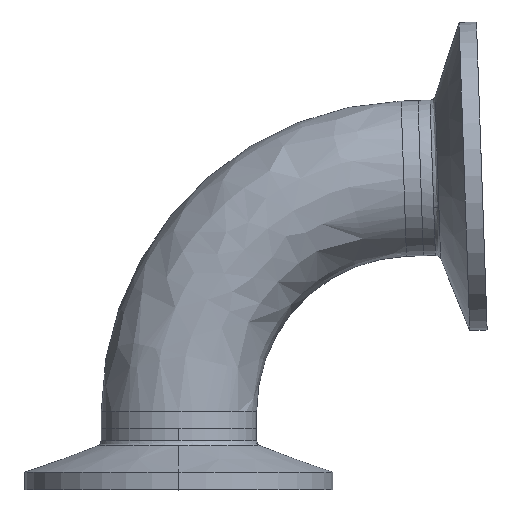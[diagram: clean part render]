
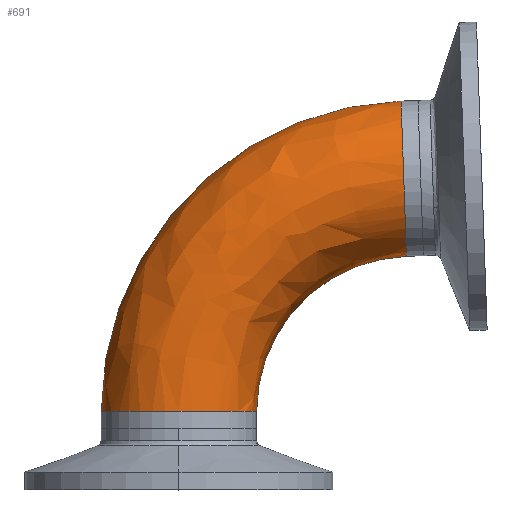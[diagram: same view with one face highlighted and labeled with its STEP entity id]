
A CAD part, top view. The second image highlights one B-rep face of the part: STEP entity #691.
In plain terms, the highlighted free-form (B-spline) face has degree [3, 3] with [4, 4] control points.
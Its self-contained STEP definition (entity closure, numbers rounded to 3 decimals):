
#10 = VERTEX_POINT ( 'NONE', #1746 ) ;
#64 = CARTESIAN_POINT ( 'NONE',  ( 36.327, 53.557, 25.4 ) ) ;
#119 = ORIENTED_EDGE ( 'NONE', *, *, #1316, .T. ) ;
#120 = CARTESIAN_POINT ( 'NONE',  ( 22.752, 27.667, 25.4 ) ) ;
#140 = CARTESIAN_POINT ( 'NONE',  ( 12.7, 2.788, 25.4 ) ) ;
#150 = CARTESIAN_POINT ( 'NONE',  ( 12.7, 17.258, 25.4 ) ) ;
#225 = AXIS2_PLACEMENT_3D ( 'NONE', #1085, #592, #1582 ) ;
#280 = CARTESIAN_POINT ( 'NONE',  ( 38.1, 2.788, 0. ) ) ;
#316 = CARTESIAN_POINT ( 'NONE',  ( -12.7, 31.728, 0. ) ) ;
#375 = CARTESIAN_POINT ( 'NONE',  ( -12.7, 31.728, 25.4 ) ) ;
#387 = EDGE_CURVE ( 'NONE', #2960, #1962, #2940, .T. ) ;
#427 = FACE_OUTER_BOUND ( 'NONE', #2512, .T. ) ;
#487 = CARTESIAN_POINT ( 'NONE',  ( 36.77, 40.864, 0. ) ) ;
#500 = CARTESIAN_POINT ( 'NONE',  ( 7.404, 52.547, 25.4 ) ) ;
#518 = DIRECTION ( 'NONE',  ( -1., 0., 0. ) ) ;
#560 = VERTEX_POINT ( 'NONE', #2633 ) ;
#592 = DIRECTION ( 'NONE',  ( 0., 1., 0. ) ) ;
#691 = ADVANCED_FACE ( 'NONE', ( #427 ), #1866, .T. ) ;
#713 = AXIS2_PLACEMENT_3D ( 'NONE', #280, #1946, #518 ) ;
#717 = CARTESIAN_POINT ( 'NONE',  ( 37.214, 28.172, 25.4 ) ) ;
#754 = AXIS2_PLACEMENT_3D ( 'NONE', #2526, #1057, #2770 ) ;
#820 = CARTESIAN_POINT ( 'NONE',  ( 7.404, 52.547, 0. ) ) ;
#1057 = DIRECTION ( 'NONE',  ( 0., 0., -1. ) ) ;
#1085 = CARTESIAN_POINT ( 'NONE',  ( 0., 2.788, 0. ) ) ;
#1222 = CARTESIAN_POINT ( 'NONE',  ( -12.7, 2.788, 0. ) ) ;
#1311 = AXIS2_PLACEMENT_3D ( 'NONE', #487, #1563, #2060 ) ;
#1316 = EDGE_CURVE ( 'NONE', #560, #10, #2899, .T. ) ;
#1499 = ORIENTED_EDGE ( 'NONE', *, *, #2423, .T. ) ;
#1563 = DIRECTION ( 'NONE',  ( -0.999, -0.035, 0. ) ) ;
#1582 = DIRECTION ( 'NONE',  ( -1., 0., 0. ) ) ;
#1684 = CARTESIAN_POINT ( 'NONE',  ( 12.7, 17.258, 0. ) ) ;
#1689 = CARTESIAN_POINT ( 'NONE',  ( 37.214, 28.172, 0. ) ) ;
#1696 = CARTESIAN_POINT ( 'NONE',  ( 12.7, 2.788, 0. ) ) ;
#1724 = CARTESIAN_POINT ( 'NONE',  ( 22.752, 27.667, 0. ) ) ;
#1746 = CARTESIAN_POINT ( 'NONE',  ( 12.7, 2.788, 0. ) ) ;
#1863 = EDGE_CURVE ( 'NONE', #560, #1962, #2234, .T. ) ;
#1866 =( BOUNDED_SURFACE ( )  B_SPLINE_SURFACE ( 3, 3, ( 
 ( #1222, #316, #820, #2764 ),
 ( #2740, #375, #500, #64 ),
 ( #140, #150, #120, #717 ),
 ( #1696, #1684, #1724, #1949 ) ),
 .UNSPECIFIED., .F., .F., .F. ) 
 B_SPLINE_SURFACE_WITH_KNOTS ( ( 4, 4 ),
 ( 4, 4 ),
 ( 0., 1. ),
 ( 0., 1. ),
 .UNSPECIFIED. ) 
 GEOMETRIC_REPRESENTATION_ITEM ( )  RATIONAL_B_SPLINE_SURFACE ( (
 ( 1., 0.813, 0.813, 1.),
 ( 0.333, 0.271, 0.271, 0.333),
 ( 0.333, 0.271, 0.271, 0.333),
 ( 1., 0.813, 0.813, 1.) ) ) 
 REPRESENTATION_ITEM ( '' )  SURFACE ( )  );
#1946 = DIRECTION ( 'NONE',  ( 0., 0., -1. ) ) ;
#1949 = CARTESIAN_POINT ( 'NONE',  ( 37.214, 28.172, 0. ) ) ;
#1962 = VERTEX_POINT ( 'NONE', #2951 ) ;
#1983 = ORIENTED_EDGE ( 'NONE', *, *, #1863, .F. ) ;
#2060 = DIRECTION ( 'NONE',  ( -0.035, 0.999, 0. ) ) ;
#2234 = CIRCLE ( 'NONE', #713, 50.8 ) ;
#2423 = EDGE_CURVE ( 'NONE', #10, #2960, #2701, .T. ) ;
#2512 = EDGE_LOOP ( 'NONE', ( #119, #1499, #2859, #1983 ) ) ;
#2526 = CARTESIAN_POINT ( 'NONE',  ( 38.1, 2.788, 0. ) ) ;
#2633 = CARTESIAN_POINT ( 'NONE',  ( -12.7, 2.788, 0. ) ) ;
#2701 = CIRCLE ( 'NONE', #754, 25.4 ) ;
#2740 = CARTESIAN_POINT ( 'NONE',  ( -12.7, 2.788, 25.4 ) ) ;
#2764 = CARTESIAN_POINT ( 'NONE',  ( 36.327, 53.557, 0. ) ) ;
#2770 = DIRECTION ( 'NONE',  ( -1., 0., 0. ) ) ;
#2859 = ORIENTED_EDGE ( 'NONE', *, *, #387, .T. ) ;
#2899 = CIRCLE ( 'NONE', #225, 12.7 ) ;
#2940 = CIRCLE ( 'NONE', #1311, 12.7 ) ;
#2951 = CARTESIAN_POINT ( 'NONE',  ( 36.327, 53.557, 0. ) ) ;
#2960 = VERTEX_POINT ( 'NONE', #1689 ) ;
